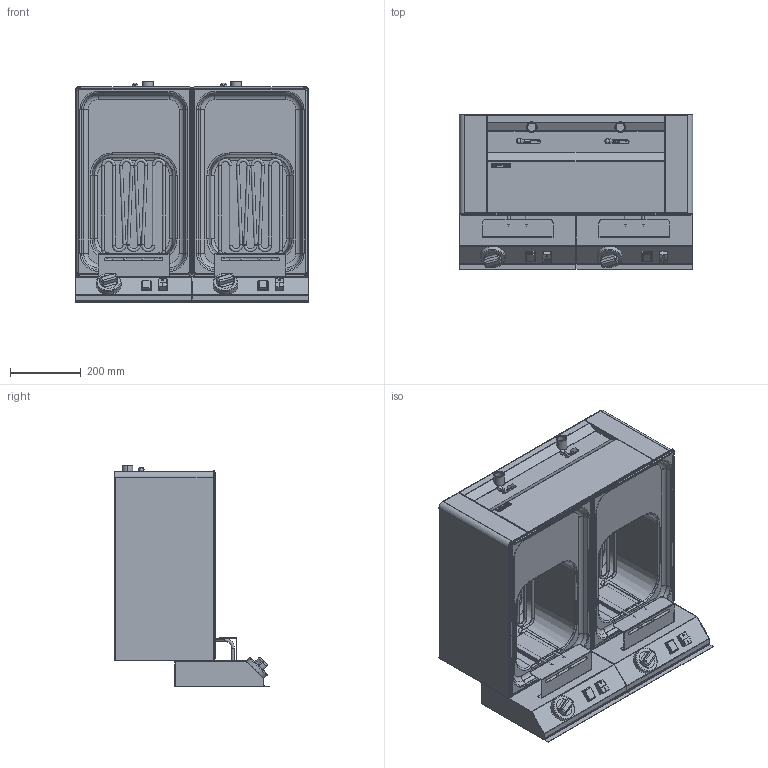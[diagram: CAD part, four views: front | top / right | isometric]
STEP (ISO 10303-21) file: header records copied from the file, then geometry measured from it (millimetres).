
FILE_DESCRIPTION (( 'STEP AP214' ), '1' );
FILE_NAME ('pres-C6FEV8266_C6FEV82T66.STEP', '2025-03-27T15:14:11', ( '' ), ( '' ), 'SwSTEP 2.0', 'SolidWorks 2025', '' );
FILE_SCHEMA (( 'AUTOMOTIVE_DESIGN' ));
Length unit declared in the file: millimetre
Products named in the file (1): pres-C6FEV8266_C6FEV82T66
Bounding box: 660 x 437 x 624 mm (x, y, z)
Volume: 3598247.1 mm3; surface area: 4940200 mm2
Topology: 40 solids, 40 shells, 1489 faces, 3389 edges, 1966 vertices
Faces by surface type: plane 712, cylinder 454, torus 200, bspline 63, cone 32, sphere 28
Entity records: 46002 total; most frequent: CARTESIAN_POINT 10600, DIRECTION 7259, ORIENTED_EDGE 6690, EDGE_CURVE 3345, AXIS2_PLACEMENT_3D 2657, VERTEX_POINT 1962, VECTOR 1945, LINE 1945
